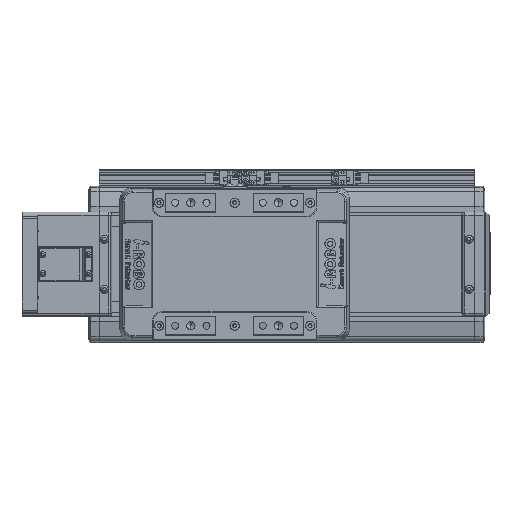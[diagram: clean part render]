
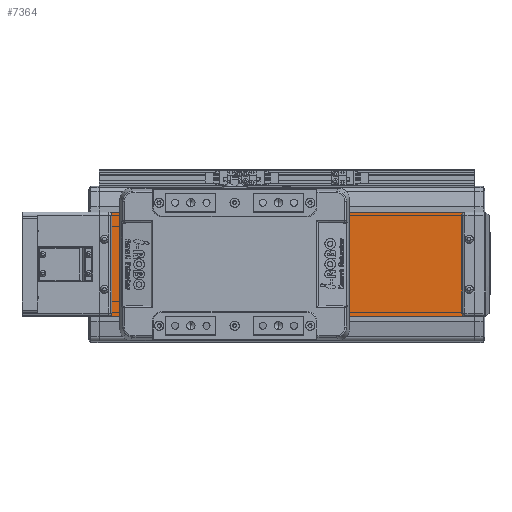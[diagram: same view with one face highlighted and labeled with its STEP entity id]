
A CAD part, top view. The second image highlights one B-rep face of the part: STEP entity #7364.
In plain terms, the highlighted planar face has unit normal (0, 0, 1).
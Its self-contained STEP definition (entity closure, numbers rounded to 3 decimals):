
#7364=ADVANCED_FACE('',(#16093),#16094,.F.);
#16093=FACE_OUTER_BOUND('',#27952,.T.);
#16094=PLANE('',#27953);
#27952=EDGE_LOOP('',(#48868,#48869,#48870,#48871));
#27953=AXIS2_PLACEMENT_3D('',#48872,#48873,#48874);
#48868=ORIENTED_EDGE('',*,*,#66429,.F.);
#48869=ORIENTED_EDGE('',*,*,#70509,.F.);
#48870=ORIENTED_EDGE('',*,*,#68553,.F.);
#48871=ORIENTED_EDGE('',*,*,#68324,.T.);
#48872=CARTESIAN_POINT('',(0.,0.,26.));
#48873=DIRECTION('',(0.,0.,-1.0));
#48874=DIRECTION('',(0.,1.0,0.));
#66429=EDGE_CURVE('',#80645,#80647,#80648,.T.);
#68324=EDGE_CURVE('',#83670,#80647,#83671,.T.);
#68553=EDGE_CURVE('',#83670,#83989,#83990,.T.);
#70509=EDGE_CURVE('',#83989,#80645,#86756,.T.);
#80645=VERTEX_POINT('',#100046);
#80647=VERTEX_POINT('',#100049);
#80648=LINE('',#100050,#100051);
#83670=VERTEX_POINT('',#104171);
#83671=LINE('',#104172,#104173);
#83989=VERTEX_POINT('',#104671);
#83990=LINE('',#104672,#104673);
#86756=LINE('',#108531,#108532);
#100046=CARTESIAN_POINT('',(360.0,50.,26.));
#100049=CARTESIAN_POINT('',(360.0,-50.,26.));
#100050=CARTESIAN_POINT('',(360.0,-50.,26.));
#100051=VECTOR('',#120070,10.0);
#104171=CARTESIAN_POINT('',(0.,-50.,26.));
#104172=CARTESIAN_POINT('',(0.,-50.,26.));
#104173=VECTOR('',#122806,10.0);
#104671=CARTESIAN_POINT('',(0.,50.,26.));
#104672=CARTESIAN_POINT('',(0.,-50.,26.));
#104673=VECTOR('',#123074,10.0);
#108531=CARTESIAN_POINT('',(0.,50.,26.));
#108532=VECTOR('',#125679,10.0);
#120070=DIRECTION('',(0.,-1.0,0.));
#122806=DIRECTION('',(1.0,0.,0.));
#123074=DIRECTION('',(0.,1.0,0.));
#125679=DIRECTION('',(1.0,0.,0.));
